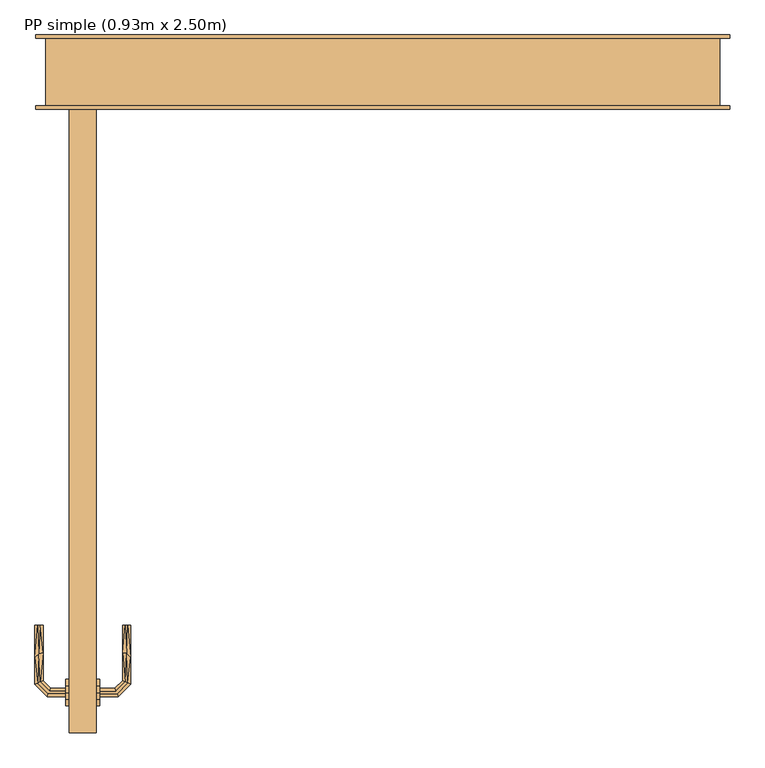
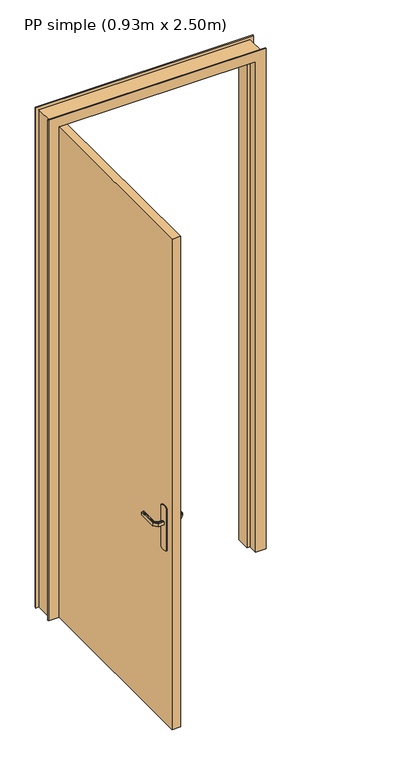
"""IFC4 building model written with IfcOpenShell, lengths in millimetres: door geometry, PP simple (0.93m x 2.50m)."""

from ifc_helpers import new_model, si_unit, frame, origin, origin_with_axes, place, context, project, spatial, polyline, outline, extrude, faceted_brep, source, transform, mapped, element, save


def pp_simple_0_93m_x_2_50m_2cc18fef(model_context):
    return source(origin(), model_context, "Body", "SolidModel", [
        extrude(outline(polyline([(-890.0, 870.0), (-890.0, 1080.0), (-880.3527618, 1083.9960169), (-870.0, 1085.3589838), (-859.6472382, 1083.9960169), (-850.0, 1080.0), (-850.0, 870.0), (-859.6472382, 866.0039831), (-870.0, 864.6410162), (-880.3527618, 866.0039831), (-890.0, 870.0)])), frame((145.0, 0.0, 0.0), z_axis=(1.0, 0.0, 0.0), x_axis=(0.0, 1.0, 0.0)), (0.0, 0.0, 1.0), 5.0),
        faceted_brep([(150.0, -867.9747013, 992.2195592), (150.0, -872.0252987, 992.2195592), (150.0, -876.0, 993.0), (150.0, -876.0, 1007.0), (150.0, -872.0252987, 1007.7804408), (150.0, -867.9747013, 1007.7804408), (150.0, -864.0, 1007.0), (150.0, -864.0, 993.0), (172.4852045, -864.0, 1007.0), (172.4852045, -864.0, 993.0), (174.1315797, -867.9747013, 1007.7804408), (175.8093921, -872.0252987, 1007.7804408), (191.9957845, -855.8389062, 1007.7804408), (187.9451872, -854.1610938, 1007.7804408), (177.4557673, -876.0, 1007.0), (177.4557673, -876.0, 993.0), (175.8093921, -872.0252987, 992.2195592), (174.1315797, -867.9747013, 992.2195592), (187.9451872, -854.1610938, 992.2195592), (191.9957845, -855.8389062, 992.2195592), (183.9704859, -852.5147186, 1007.0), (183.9704859, -852.5147186, 993.0), (195.9704859, -857.4852814, 1007.0), (195.9704859, -857.4852814, 993.0), (187.9451872, -769.9542163, 1007.7804408), (191.9957845, -769.9542163, 1007.7804408), (195.9704859, -769.9542163, 1007.0), (195.9704859, -769.9542163, 993.0), (191.9957845, -769.9542163, 992.2195592), (187.9451872, -769.9542163, 992.2195592), (183.9704859, -769.9542163, 993.0), (183.9704859, -769.9542163, 1007.0), (183.9704859, -811.2344675, 1007.0), (183.9704859, -811.2344794, 993.0), (189.9704859, -812.0576551, 1007.8786868), (195.9704859, -817.5547942, 1007.0), (195.9704859, -817.5547957, 993.0), (189.9704858, -812.0576549, 992.1213132)], [[[0, 1, 2, 3, 4, 5, 6, 7]], [[8, 9, 7, 6]], [[5, 10, 8, 6]], [[5, 4, 11, 12, 13, 10]], [[3, 14, 11, 4]], [[14, 3, 2, 15]], [[2, 1, 16, 15]], [[1, 0, 17, 18, 19, 16]], [[0, 7, 9, 17]], [[20, 21, 9, 8]], [[8, 10, 13, 20]], [[14, 22, 12, 11]], [[23, 22, 14, 15]], [[15, 16, 19, 23]], [[17, 9, 21, 18]], [[24, 25, 26, 27, 28, 29, 30, 31]], [[21, 20, 32, 31, 30, 33]], [[34, 24, 32]], [[25, 34, 35]], [[13, 32, 20]], [[24, 31, 32]], [[25, 35, 26]], [[35, 12, 22]], [[34, 12, 35]], [[34, 13, 12]], [[34, 32, 13]], [[24, 34, 25]], [[22, 23, 36, 27, 26, 35]], [[37, 28, 36]], [[36, 28, 27]], [[36, 23, 19]], [[18, 33, 37]], [[33, 18, 21]], [[30, 29, 33]], [[37, 29, 28]], [[37, 33, 29]], [[37, 36, 19]], [[18, 37, 19]]]),
        faceted_brep([(100.0, -867.9747013, 1007.7804408), (100.0, -872.0252987, 1007.7804408), (100.0, -876.0, 1007.0), (100.0, -876.0, 993.0), (100.0, -872.0252987, 992.2195592), (100.0, -867.9747013, 992.2195592), (100.0, -864.0, 993.0), (100.0, -864.0, 1007.0), (73.9954245, -872.0252987, 1007.7804408), (72.3490493, -876.0, 1007.0), (75.6732368, -867.9747013, 1007.7804408), (61.997138, -854.2986025, 1007.7804408), (57.9465407, -855.9764148, 1007.7804408), (77.319612, -864.0, 1007.0), (77.319612, -864.0, 993.0), (75.6732368, -867.9747013, 992.2195592), (73.9954245, -872.0252987, 992.2195592), (57.9465407, -855.9764148, 992.2195592), (61.997138, -854.2986025, 992.2195592), (72.3490493, -876.0, 993.0), (53.9718393, -857.62279, 1007.0), (65.9718393, -852.6522273, 1007.0), (65.9718393, -852.6522273, 993.0), (53.9718393, -857.62279, 993.0), (53.9718393, -769.9813594, 1007.0), (57.9465407, -769.9813594, 1007.7804408), (61.997138, -769.9813594, 1007.7804408), (65.9718393, -769.9813594, 1007.0), (65.9718393, -769.9813594, 993.0), (61.997138, -769.9813594, 992.2195592), (57.9465407, -769.9813594, 992.2195592), (53.9718393, -769.9813594, 993.0), (59.9718393, -812.1399809, 1007.8786868), (53.9718393, -817.6923028, 1007.0), (65.9718393, -811.3167933, 1007.0), (65.9718393, -811.3167933, 993.0), (59.9718392, -812.1399811, 992.1213132), (53.9718393, -817.6923104, 993.0)], [[[0, 1, 2, 3, 4, 5, 6, 7]], [[2, 1, 8, 9]], [[1, 0, 10, 11, 12, 8]], [[0, 7, 13, 10]], [[14, 13, 7, 6]], [[5, 15, 14, 6]], [[5, 4, 16, 17, 18, 15]], [[3, 19, 16, 4]], [[9, 19, 3, 2]], [[9, 8, 12, 20]], [[10, 13, 21, 11]], [[22, 21, 13, 14]], [[14, 15, 18, 22]], [[16, 19, 23, 17]], [[20, 23, 19, 9]], [[24, 25, 26, 27, 28, 29, 30, 31]], [[32, 25, 33]], [[33, 25, 24]], [[33, 20, 12]], [[11, 34, 32]], [[34, 11, 21]], [[27, 26, 34]], [[32, 26, 25]], [[32, 34, 26]], [[32, 33, 12]], [[11, 32, 12]], [[21, 22, 35, 28, 27, 34]], [[36, 29, 35]], [[30, 36, 37]], [[18, 35, 22]], [[29, 28, 35]], [[30, 37, 31]], [[37, 17, 23]], [[36, 17, 37]], [[36, 18, 17]], [[36, 35, 18]], [[29, 36, 30]], [[23, 20, 33, 24, 31, 37]]]),
        extrude(outline(polyline([(-890.0, 870.0), (-890.0, 1080.0), (-880.3527618, 1083.9960169), (-870.0, 1085.3589838), (-859.6472382, 1083.9960169), (-850.0, 1080.0), (-850.0, 870.0), (-859.6472382, 866.0039831), (-870.0, 864.6410162), (-880.3527618, 866.0039831), (-890.0, 870.0)])), frame((100.0, 0.0, 0.0), z_axis=(1.0, 0.0, 0.0), x_axis=(0.0, 1.0, 0.0)), (0.0, 0.0, 1.0), 5.0),
        faceted_brep([(1070.0, 100.0, 0.0), (1070.0, 0.0, 0.0), (1085.0, 0.0, 0.0), (1085.0, -5.0, 0.0), (1035.0, -5.0, 0.0), (1035.0, 40.0, 0.0), (1020.0, 40.0, 0.0), (1020.0, 105.0, 0.0), (1085.0, 105.0, 0.0), (1085.0, 100.0, 0.0), (1070.0, 100.0, 2485.0), (1070.0, 0.0, 2485.0), (1085.0, 100.0, 2500.0), (55.0, 100.0, 2500.0), (55.0, 100.0, 0.0), (70.0, 100.0, 0.0), (70.0, 100.0, 2485.0), (1020.0, 40.0, 2435.0), (1020.0, 105.0, 2435.0), (1035.0, 40.0, 2450.0), (105.0, 40.0, 2450.0), (105.0, 40.0, 0.0), (120.0, 40.0, 0.0), (120.0, 40.0, 2435.0), (70.0, 0.0, 0.0), (70.0, 0.0, 2485.0), (55.0, 105.0, 0.0), (120.0, 105.0, 0.0), (105.0, -5.0, 0.0), (55.0, -5.0, 0.0), (55.0, 0.0, 0.0), (120.0, 105.0, 2435.0), (1035.0, -5.0, 2450.0), (1085.0, -5.0, 2500.0), (55.0, -5.0, 2500.0), (105.0, -5.0, 2450.0), (1085.0, 0.0, 2500.0), (55.0, 0.0, 2500.0), (1085.0, 105.0, 2500.0), (55.0, 105.0, 2500.0)], [[[0, 1, 2, 3, 4, 5, 6, 7, 8, 9]], [[0, 10, 11, 1]], [[9, 12, 13, 14, 15, 16, 10, 0]], [[7, 6, 17, 18]], [[5, 19, 20, 21, 22, 23, 17, 6]], [[16, 15, 24, 25]], [[15, 14, 26, 27, 22, 21, 28, 29, 30, 24]], [[23, 22, 27, 31]], [[10, 16, 25, 11]], [[17, 23, 31, 18]], [[5, 4, 32, 19]], [[3, 33, 34, 29, 28, 35, 32, 4]], [[2, 36, 33, 3]], [[1, 11, 25, 24, 30, 37, 36, 2]], [[8, 38, 12, 9]], [[7, 18, 31, 27, 26, 39, 38, 8]], [[35, 28, 21, 20]], [[37, 30, 29, 34]], [[39, 26, 14, 13]], [[32, 35, 20, 19]], [[36, 37, 34, 33]], [[38, 39, 13, 12]]]),
        extrude(outline(polyline([(145.0, -930.0), (105.0, -930.0), (105.0, 0.0), (145.0, 0.0), (145.0, -930.0)])), origin_with_axes(), (0.0, 0.0, 1.0), 2450.0),
    ])


if __name__ == "__main__":
    model = new_model("IFC4")
    model_context = context("Model", 3, world=origin())
    ifc_project = project(units=[si_unit("LENGTHUNIT", "METRE", prefix="MILLI")], contexts=[model_context])
    site = spatial("IfcSite", under=ifc_project)
    building = spatial("IfcBuilding", under=site)
    placement = place(None, origin())
    pp_simple_0_93m_x_2_50m_shape = pp_simple_0_93m_x_2_50m_2cc18fef(model_context)
    element("IfcDoor", 1, ObjectType="PP simple (0.93m x 2.50m)", at=placement, inside=building, context=model_context, shape_type="MappedRepresentation", body=[
        mapped(pp_simple_0_93m_x_2_50m_shape, transform((0.0, 0.0, 0.0), x_axis=(1.0, 0.0, 0.0), y_axis=(0.0, 1.0, 0.0), z_axis=(0.0, 0.0, 1.0))),
    ])
    save(model, "model.ifc")
